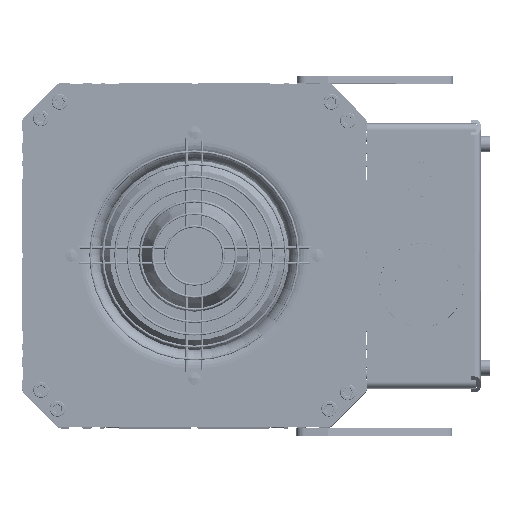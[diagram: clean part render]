
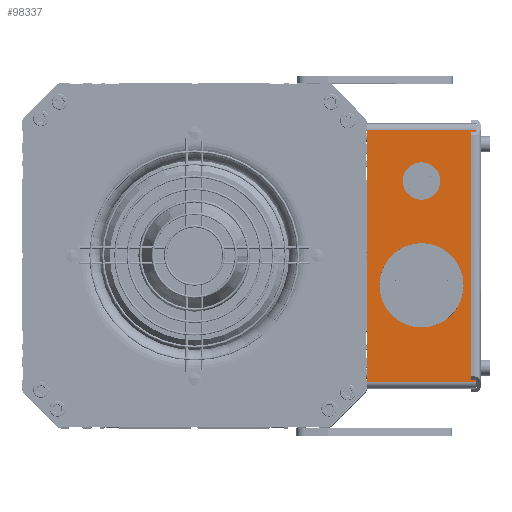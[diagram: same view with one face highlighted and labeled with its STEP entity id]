
A CAD part, top view. The second image highlights one B-rep face of the part: STEP entity #98337.
In plain terms, the highlighted planar face has unit normal (0, 0, 1) as drawn and (1, 0, 0) by its records, which use the part's own axes.
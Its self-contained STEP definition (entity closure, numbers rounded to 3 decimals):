
#96324=DIRECTION('',(0.,0.,-1.));
#96325=VECTOR('',#96324,70.);
#96326=CARTESIAN_POINT('',(80.,-81.,70.));
#96327=LINE('',#96326,#96325);
#96406=DIRECTION('',(0.,0.,1.));
#96407=VECTOR('',#96406,70.);
#96408=CARTESIAN_POINT('',(80.,81.,0.));
#96409=LINE('',#96408,#96407);
#96414=DIRECTION('',(0.,-1.,0.));
#96415=VECTOR('',#96414,162.);
#96416=CARTESIAN_POINT('',(80.,81.,0.));
#96417=LINE('',#96416,#96415);
#96418=CARTESIAN_POINT('',(80.,19.,35.));
#96419=DIRECTION('',(1.,0.,0.));
#96420=DIRECTION('',(0.,0.,1.));
#96421=AXIS2_PLACEMENT_3D('',#96418,#96419,#96420);
#96423=CARTESIAN_POINT('',(80.,19.,35.));
#96424=DIRECTION('',(1.,0.,0.));
#96425=DIRECTION('',(0.,0.,-1.));
#96426=AXIS2_PLACEMENT_3D('',#96423,#96424,#96425);
#96428=CARTESIAN_POINT('',(80.,-48.,35.));
#96429=DIRECTION('',(1.,0.,0.));
#96430=DIRECTION('',(0.,0.,1.));
#96431=AXIS2_PLACEMENT_3D('',#96428,#96429,#96430);
#96433=CARTESIAN_POINT('',(80.,-48.,35.));
#96434=DIRECTION('',(1.,0.,0.));
#96435=DIRECTION('',(0.,0.,-1.));
#96436=AXIS2_PLACEMENT_3D('',#96433,#96434,#96435);
#96443=DIRECTION('',(0.,-1.,0.));
#96444=VECTOR('',#96443,162.);
#96445=CARTESIAN_POINT('',(80.,81.,70.));
#96446=LINE('',#96445,#96444);
#97699=CARTESIAN_POINT('',(80.,-81.,0.));
#97701=VERTEX_POINT('',#97699);
#97702=CARTESIAN_POINT('',(80.,81.,0.));
#97703=VERTEX_POINT('',#97702);
#97736=CARTESIAN_POINT('',(80.,-81.,70.));
#97737=VERTEX_POINT('',#97736);
#97893=CARTESIAN_POINT('',(80.,81.,70.));
#97895=VERTEX_POINT('',#97893);
#97938=CARTESIAN_POINT('',(80.,19.,55.75));
#97939=CARTESIAN_POINT('',(80.,19.,14.25));
#97940=VERTEX_POINT('',#97938);
#97941=VERTEX_POINT('',#97939);
#97942=CARTESIAN_POINT('',(80.,-48.,43.));
#97943=CARTESIAN_POINT('',(80.,-48.,27.));
#97944=VERTEX_POINT('',#97942);
#97945=VERTEX_POINT('',#97943);
#98313=CARTESIAN_POINT('',(80.,-85.,0.));
#98314=DIRECTION('',(1.,0.,0.));
#98315=DIRECTION('',(0.,1.,0.));
#98316=AXIS2_PLACEMENT_3D('',#98313,#98314,#98315);
#98317=PLANE('',#98316);
#98318=ORIENTED_EDGE('',*,*,#98304,.F.);
#98319=ORIENTED_EDGE('',*,*,#98137,.T.);
#98320=ORIENTED_EDGE('',*,*,#98193,.F.);
#98322=ORIENTED_EDGE('',*,*,#98321,.F.);
#98323=EDGE_LOOP('',(#98318,#98319,#98320,#98322));
#98324=FACE_OUTER_BOUND('',#98323,.F.);
#98326=ORIENTED_EDGE('',*,*,#98325,.T.);
#98328=ORIENTED_EDGE('',*,*,#98327,.T.);
#98329=EDGE_LOOP('',(#98326,#98328));
#98330=FACE_BOUND('',#98329,.F.);
#98332=ORIENTED_EDGE('',*,*,#98331,.T.);
#98334=ORIENTED_EDGE('',*,*,#98333,.T.);
#98335=EDGE_LOOP('',(#98332,#98334));
#98336=FACE_BOUND('',#98335,.F.);
#96422=CIRCLE('',#96421,20.75);
#96427=CIRCLE('',#96426,20.75);
#96432=CIRCLE('',#96431,8.);
#96437=CIRCLE('',#96436,8.);
#98137=EDGE_CURVE('',#97703,#97701,#96417,.T.);
#98193=EDGE_CURVE('',#97737,#97701,#96327,.T.);
#98304=EDGE_CURVE('',#97703,#97895,#96409,.T.);
#98321=EDGE_CURVE('',#97895,#97737,#96446,.T.);
#98325=EDGE_CURVE('',#97940,#97941,#96422,.T.);
#98327=EDGE_CURVE('',#97941,#97940,#96427,.T.);
#98331=EDGE_CURVE('',#97944,#97945,#96432,.T.);
#98333=EDGE_CURVE('',#97945,#97944,#96437,.T.);
#98337=ADVANCED_FACE('',(#98324,#98330,#98336),#98317,.T.);
